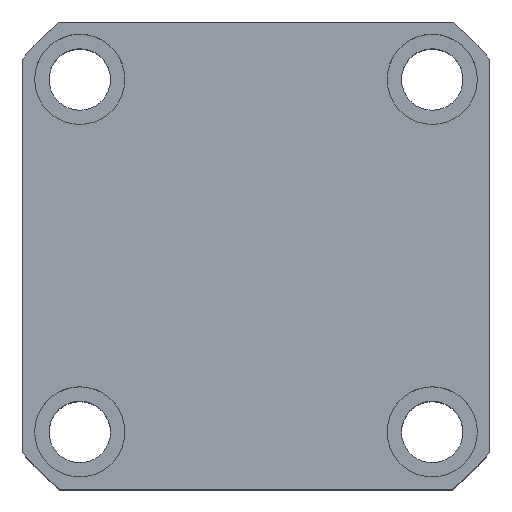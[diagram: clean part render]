
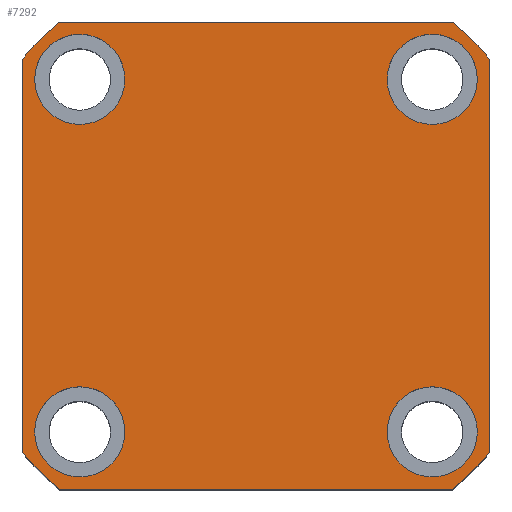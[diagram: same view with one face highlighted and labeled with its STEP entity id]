
A CAD part, top view. The second image highlights one B-rep face of the part: STEP entity #7292.
In plain terms, the highlighted planar face has unit normal (0, 0, 1) as drawn and (0, 0, -1) by its records, which use the part's own axes.
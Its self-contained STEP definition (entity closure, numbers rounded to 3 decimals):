
#95 = DIRECTION ( 'NONE',  ( 0., 0., 1. ) ) ;
#96 = VERTEX_POINT ( 'NONE', #4431 ) ;
#112 = EDGE_CURVE ( 'NONE', #14452, #14431, #5047, .T. ) ;
#135 = CARTESIAN_POINT ( 'NONE',  ( -57., 47.971, 0. ) ) ;
#294 = VERTEX_POINT ( 'NONE', #1949 ) ;
#313 = EDGE_CURVE ( 'NONE', #9358, #8857, #13339, .T. ) ;
#329 = CARTESIAN_POINT ( 'NONE',  ( 57., 57., 0. ) ) ;
#362 = VERTEX_POINT ( 'NONE', #5879 ) ;
#414 = AXIS2_PLACEMENT_3D ( 'NONE', #4402, #12633, #5574 ) ;
#435 = VERTEX_POINT ( 'NONE', #1232 ) ;
#578 = ORIENTED_EDGE ( 'NONE', *, *, #14264, .F. ) ;
#803 = CARTESIAN_POINT ( 'NONE',  ( 43., 43., 0. ) ) ;
#830 = ORIENTED_EDGE ( 'NONE', *, *, #13503, .F. ) ;
#968 = LINE ( 'NONE', #4146, #13080 ) ;
#1123 = DIRECTION ( 'NONE',  ( 0., 0., -1. ) ) ;
#1126 = DIRECTION ( 'NONE',  ( 0., 0., -1. ) ) ;
#1169 = DIRECTION ( 'NONE',  ( 1., 0., 0. ) ) ;
#1232 = CARTESIAN_POINT ( 'NONE',  ( -54., -43., 0. ) ) ;
#1411 = AXIS2_PLACEMENT_3D ( 'NONE', #6477, #14757, #7667 ) ;
#1502 = CIRCLE ( 'NONE', #12430, 11. ) ;
#1518 = DIRECTION ( 'NONE',  ( 0., 1., 0. ) ) ;
#1773 = EDGE_LOOP ( 'NONE', ( #578, #4880, #12821, #2801, #2309, #10483, #8052, #15157 ) ) ;
#1942 = VERTEX_POINT ( 'NONE', #6502 ) ;
#1949 = CARTESIAN_POINT ( 'NONE',  ( -32., -43., 0. ) ) ;
#2002 = DIRECTION ( 'NONE',  ( -1., 0., 0. ) ) ;
#2257 = VECTOR ( 'NONE', #1518, 1000. ) ;
#2262 = CARTESIAN_POINT ( 'NONE',  ( -47.971, -57., 0. ) ) ;
#2309 = ORIENTED_EDGE ( 'NONE', *, *, #14489, .F. ) ;
#2582 = FACE_OUTER_BOUND ( 'NONE', #1773, .T. ) ;
#2742 = CIRCLE ( 'NONE', #3859, 11. ) ;
#2801 = ORIENTED_EDGE ( 'NONE', *, *, #112, .F. ) ;
#3182 = CARTESIAN_POINT ( 'NONE',  ( 43., 43., 0. ) ) ;
#3358 = ORIENTED_EDGE ( 'NONE', *, *, #13869, .F. ) ;
#3504 = CARTESIAN_POINT ( 'NONE',  ( -43., -43., 0. ) ) ;
#3517 = EDGE_CURVE ( 'NONE', #5817, #6893, #9257, .T. ) ;
#3581 = CARTESIAN_POINT ( 'NONE',  ( -47.971, 57., 0. ) ) ;
#3599 = VERTEX_POINT ( 'NONE', #8674 ) ;
#3652 = EDGE_CURVE ( 'NONE', #9171, #9358, #14783, .T. ) ;
#3679 = CIRCLE ( 'NONE', #9122, 74.5 ) ;
#3761 = AXIS2_PLACEMENT_3D ( 'NONE', #12189, #5140, #13387 ) ;
#3773 = EDGE_CURVE ( 'NONE', #96, #362, #1502, .T. ) ;
#3859 = AXIS2_PLACEMENT_3D ( 'NONE', #13525, #6444, #14725 ) ;
#4146 = CARTESIAN_POINT ( 'NONE',  ( -57., 57., 0. ) ) ;
#4148 = PLANE ( 'NONE',  #13660 ) ;
#4176 = EDGE_CURVE ( 'NONE', #14431, #13971, #9756, .T. ) ;
#4366 = DIRECTION ( 'NONE',  ( -1., 0., 0. ) ) ;
#4402 = CARTESIAN_POINT ( 'NONE',  ( 0., 0., 0. ) ) ;
#4429 = CIRCLE ( 'NONE', #10196, 11. ) ;
#4431 = CARTESIAN_POINT ( 'NONE',  ( 32., 43., 0. ) ) ;
#4654 = DIRECTION ( 'NONE',  ( 0., 0., -1. ) ) ;
#4673 = DIRECTION ( 'NONE',  ( -1., 0., 0. ) ) ;
#4880 = ORIENTED_EDGE ( 'NONE', *, *, #13070, .F. ) ;
#5047 = LINE ( 'NONE', #5860, #14471 ) ;
#5140 = DIRECTION ( 'NONE',  ( 0., 0., -1. ) ) ;
#5185 = ORIENTED_EDGE ( 'NONE', *, *, #3517, .F. ) ;
#5313 = LINE ( 'NONE', #329, #2257 ) ;
#5378 = ORIENTED_EDGE ( 'NONE', *, *, #9011, .F. ) ;
#5574 = DIRECTION ( 'NONE',  ( 1., 0., 0. ) ) ;
#5663 = ORIENTED_EDGE ( 'NONE', *, *, #13521, .F. ) ;
#5710 = FACE_BOUND ( 'NONE', #8496, .T. ) ;
#5779 = EDGE_LOOP ( 'NONE', ( #13993, #5663 ) ) ;
#5780 = CIRCLE ( 'NONE', #9170, 11. ) ;
#5817 = VERTEX_POINT ( 'NONE', #11298 ) ;
#5860 = CARTESIAN_POINT ( 'NONE',  ( -57., -57., 0. ) ) ;
#5879 = CARTESIAN_POINT ( 'NONE',  ( 54., 43., 0. ) ) ;
#5997 = EDGE_LOOP ( 'NONE', ( #9595, #15225 ) ) ;
#6444 = DIRECTION ( 'NONE',  ( 0., 0., -1. ) ) ;
#6477 = CARTESIAN_POINT ( 'NONE',  ( 0., 0., 0. ) ) ;
#6502 = CARTESIAN_POINT ( 'NONE',  ( 47.971, 57., 0. ) ) ;
#6506 = CARTESIAN_POINT ( 'NONE',  ( 0., 0., 0. ) ) ;
#6616 = CIRCLE ( 'NONE', #9663, 11. ) ;
#6715 = CARTESIAN_POINT ( 'NONE',  ( 57., 47.971, 0. ) ) ;
#6893 = VERTEX_POINT ( 'NONE', #14820 ) ;
#7088 = DIRECTION ( 'NONE',  ( 1., 0., 0. ) ) ;
#7112 = CARTESIAN_POINT ( 'NONE',  ( 0., 0., 0. ) ) ;
#7292 = ADVANCED_FACE ( 'NONE', ( #12298, #15139, #11938, #5710, #2582 ), #4148, .F. ) ;
#7667 = DIRECTION ( 'NONE',  ( 1., 0., 0. ) ) ;
#7687 = DIRECTION ( 'NONE',  ( 1., 0., 0. ) ) ;
#8052 = ORIENTED_EDGE ( 'NONE', *, *, #3652, .F. ) ;
#8140 = CARTESIAN_POINT ( 'NONE',  ( -43., 43., 0. ) ) ;
#8144 = CARTESIAN_POINT ( 'NONE',  ( -43., 43., 0. ) ) ;
#8192 = DIRECTION ( 'NONE',  ( 0., 0., 1. ) ) ;
#8288 = DIRECTION ( 'NONE',  ( 1., 0., 0. ) ) ;
#8496 = EDGE_LOOP ( 'NONE', ( #5378, #830 ) ) ;
#8674 = CARTESIAN_POINT ( 'NONE',  ( -54., 43., 0. ) ) ;
#8857 = VERTEX_POINT ( 'NONE', #11439 ) ;
#8864 = VERTEX_POINT ( 'NONE', #6715 ) ;
#8878 = AXIS2_PLACEMENT_3D ( 'NONE', #8144, #1126, #9334 ) ;
#8939 = CARTESIAN_POINT ( 'NONE',  ( 57., -47.971, 0. ) ) ;
#9011 = EDGE_CURVE ( 'NONE', #3599, #10854, #5780, .T. ) ;
#9017 = DIRECTION ( 'NONE',  ( 0., 0., -1. ) ) ;
#9122 = AXIS2_PLACEMENT_3D ( 'NONE', #15277, #8192, #1169 ) ;
#9170 = AXIS2_PLACEMENT_3D ( 'NONE', #8140, #1123, #9331 ) ;
#9171 = VERTEX_POINT ( 'NONE', #3581 ) ;
#9257 = CIRCLE ( 'NONE', #3761, 11. ) ;
#9331 = DIRECTION ( 'NONE',  ( -1., 0., 0. ) ) ;
#9334 = DIRECTION ( 'NONE',  ( -1., 0., 0. ) ) ;
#9358 = VERTEX_POINT ( 'NONE', #135 ) ;
#9595 = ORIENTED_EDGE ( 'NONE', *, *, #3773, .F. ) ;
#9663 = AXIS2_PLACEMENT_3D ( 'NONE', #11707, #4654, #12894 ) ;
#9756 = CIRCLE ( 'NONE', #11362, 74.5 ) ;
#9821 = VECTOR ( 'NONE', #11200, 1000. ) ;
#10060 = DIRECTION ( 'NONE',  ( -1., 0., 0. ) ) ;
#10196 = AXIS2_PLACEMENT_3D ( 'NONE', #803, #9017, #2002 ) ;
#10325 = CIRCLE ( 'NONE', #414, 74.5 ) ;
#10478 = CARTESIAN_POINT ( 'NONE',  ( 47.971, -57., 0. ) ) ;
#10483 = ORIENTED_EDGE ( 'NONE', *, *, #313, .F. ) ;
#10569 = AXIS2_PLACEMENT_3D ( 'NONE', #3504, #11721, #4673 ) ;
#10854 = VERTEX_POINT ( 'NONE', #13391 ) ;
#11200 = DIRECTION ( 'NONE',  ( 0., -1., 0. ) ) ;
#11298 = CARTESIAN_POINT ( 'NONE',  ( 54., -43., 0. ) ) ;
#11362 = AXIS2_PLACEMENT_3D ( 'NONE', #7112, #95, #8288 ) ;
#11392 = DIRECTION ( 'NONE',  ( 0., 0., -1. ) ) ;
#11439 = CARTESIAN_POINT ( 'NONE',  ( -57., -47.971, 0. ) ) ;
#11650 = CARTESIAN_POINT ( 'NONE',  ( -57., 57., 0. ) ) ;
#11707 = CARTESIAN_POINT ( 'NONE',  ( -43., -43., 0. ) ) ;
#11721 = DIRECTION ( 'NONE',  ( 0., 0., -1. ) ) ;
#11938 = FACE_BOUND ( 'NONE', #5997, .T. ) ;
#12117 = EDGE_CURVE ( 'NONE', #435, #294, #14212, .T. ) ;
#12189 = CARTESIAN_POINT ( 'NONE',  ( 43., -43., 0. ) ) ;
#12298 = FACE_BOUND ( 'NONE', #5779, .T. ) ;
#12430 = AXIS2_PLACEMENT_3D ( 'NONE', #3182, #11392, #4366 ) ;
#12633 = DIRECTION ( 'NONE',  ( 0., 0., 1. ) ) ;
#12821 = ORIENTED_EDGE ( 'NONE', *, *, #4176, .F. ) ;
#12824 = EDGE_CURVE ( 'NONE', #1942, #9171, #968, .T. ) ;
#12894 = DIRECTION ( 'NONE',  ( -1., 0., 0. ) ) ;
#12906 = CIRCLE ( 'NONE', #8878, 11. ) ;
#13070 = EDGE_CURVE ( 'NONE', #13971, #8864, #5313, .T. ) ;
#13080 = VECTOR ( 'NONE', #10060, 1000. ) ;
#13339 = LINE ( 'NONE', #11650, #9821 ) ;
#13387 = DIRECTION ( 'NONE',  ( -1., 0., 0. ) ) ;
#13391 = CARTESIAN_POINT ( 'NONE',  ( -32., 43., 0. ) ) ;
#13503 = EDGE_CURVE ( 'NONE', #10854, #3599, #12906, .T. ) ;
#13521 = EDGE_CURVE ( 'NONE', #294, #435, #6616, .T. ) ;
#13525 = CARTESIAN_POINT ( 'NONE',  ( 43., -43., 0. ) ) ;
#13660 = AXIS2_PLACEMENT_3D ( 'NONE', #6506, #14777, #7687 ) ;
#13869 = EDGE_CURVE ( 'NONE', #6893, #5817, #2742, .T. ) ;
#13971 = VERTEX_POINT ( 'NONE', #8939 ) ;
#13993 = ORIENTED_EDGE ( 'NONE', *, *, #12117, .F. ) ;
#14092 = EDGE_LOOP ( 'NONE', ( #3358, #5185 ) ) ;
#14212 = CIRCLE ( 'NONE', #10569, 11. ) ;
#14215 = EDGE_CURVE ( 'NONE', #362, #96, #4429, .T. ) ;
#14264 = EDGE_CURVE ( 'NONE', #8864, #1942, #10325, .T. ) ;
#14431 = VERTEX_POINT ( 'NONE', #10478 ) ;
#14452 = VERTEX_POINT ( 'NONE', #2262 ) ;
#14471 = VECTOR ( 'NONE', #7088, 1000. ) ;
#14489 = EDGE_CURVE ( 'NONE', #8857, #14452, #3679, .T. ) ;
#14725 = DIRECTION ( 'NONE',  ( -1., 0., 0. ) ) ;
#14757 = DIRECTION ( 'NONE',  ( 0., 0., 1. ) ) ;
#14777 = DIRECTION ( 'NONE',  ( 0., 0., 1. ) ) ;
#14783 = CIRCLE ( 'NONE', #1411, 74.5 ) ;
#14820 = CARTESIAN_POINT ( 'NONE',  ( 32., -43., 0. ) ) ;
#15139 = FACE_BOUND ( 'NONE', #14092, .T. ) ;
#15157 = ORIENTED_EDGE ( 'NONE', *, *, #12824, .F. ) ;
#15225 = ORIENTED_EDGE ( 'NONE', *, *, #14215, .F. ) ;
#15277 = CARTESIAN_POINT ( 'NONE',  ( 0., 0., 0. ) ) ;
